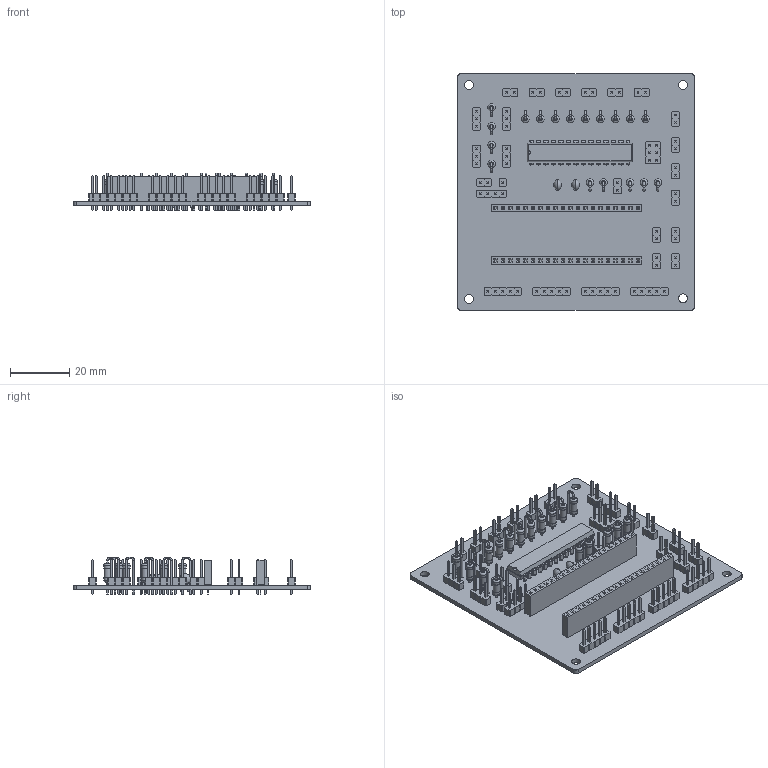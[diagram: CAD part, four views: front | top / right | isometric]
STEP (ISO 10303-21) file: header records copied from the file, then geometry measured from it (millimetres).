
FILE_DESCRIPTION(('KiCad electronic assembly'),'2;1');
FILE_NAME('MultiPicoBox.step','2026-05-22T10:29:10',('Pcbnew'),('Kicad') ,'Open CASCADE STEP processor 7.6','KiCad to STEP converter','Unknown' );
FILE_SCHEMA(('AUTOMOTIVE_DESIGN { 1 0 10303 214 1 1 1 1 }'));
Length unit declared in the file: millimetre
Products named in the file (12): MultiPicoBox 1; PinHeader_1x02_P2.54mm_Vertical; R_Axial_DIN0207_L6.3mm_D2.5mm_P2.54mm_Vertical; PinHeader_1x03_P2.54mm_Vertical; PinHeader_1x05_P2.54mm_Vertical; PinHeader_2x03_P2.54mm_Vertical; PinSocket_1x20_P2.54mm_Vertical; DIP-28_W7.62mm; PinHeader_1x01_P2.54mm_Vertical; PinHeader_1x04_P2.54mm_Vertical; C_Disc_D3.8mm_W2.6mm_P2.50mm; MultiPicoBox_PCB
Assembly tree (51 placements, depth 2):
  MultiPicoBox 1
    PinHeader_1x02_P2.54mm_Vertical  x16
    R_Axial_DIN0207_L6.3mm_D2.5mm_P2.54mm_Vertical  x18
    PinHeader_1x03_P2.54mm_Vertical  x4
    PinHeader_1x05_P2.54mm_Vertical  x4
    PinHeader_2x03_P2.54mm_Vertical
    PinSocket_1x20_P2.54mm_Vertical  x2
    DIP-28_W7.62mm
    PinHeader_1x01_P2.54mm_Vertical
    PinHeader_1x04_P2.54mm_Vertical
    C_Disc_D3.8mm_W2.6mm_P2.50mm  x2
    MultiPicoBox_PCB
Bounding box: 80 x 80 x 12.8 mm (x, y, z)
Volume: 14326.6 mm3; surface area: 23893.9 mm2
Topology: 51 solids, 51 shells, 3961 faces, 9687 edges, 6126 vertices
Faces by surface type: plane 3459, cylinder 378, torus 72, bspline 40, revolution 8, sphere 4
Full cylindrical faces by diameter (mm): 0.5 x4, 0.6 x72, 0.8 x68, 1 x115, 2.25 x18, 2.5 x36, 3 x4
Entity records: 54545 total; most frequent: CARTESIAN_POINT 10228, ORIENTED_EDGE 9114, DIRECTION 8591, EDGE_CURVE 4557, LINE 3997, VECTOR 3997, VERTEX_POINT 2913, AXIS2_PLACEMENT_3D 2295
